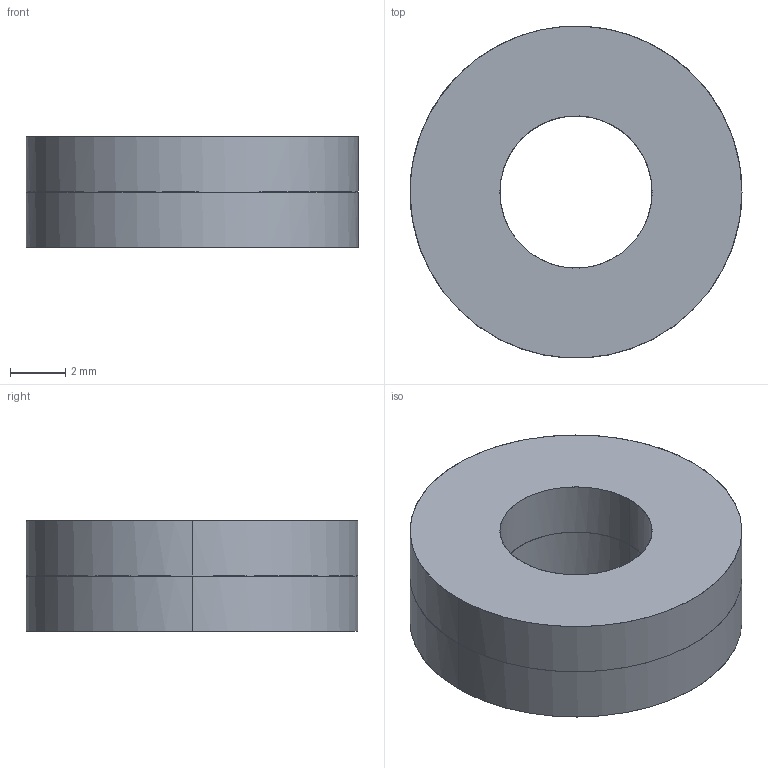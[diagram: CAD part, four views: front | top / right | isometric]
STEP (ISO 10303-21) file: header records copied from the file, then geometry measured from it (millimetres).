
FILE_DESCRIPTION(/* description */ (''),/* implementation_level */ '2;1');
FILE_NAME(/* name */ 'X-B5BD~1',/* time_stamp */ '2014-02-14T19:46:47+01:00',/* author */ (''),/* organization */ (''),/* preprocessor_version */ 'ST-DEVELOPER v14',/* originating_system */ '',/* authorisation */ '');
FILE_SCHEMA (('AUTOMOTIVE_DESIGN'));
Length unit declared in the file: millimetre
Products named in the file (1): Document
Bounding box: 12 x 11.99 x 4 mm (x, y, z)
Surface area: 579 mm2 (no closed solid volume)
Topology: 0 solids, 12 shells, 12 faces, 40 edges, 40 vertices
Faces by surface type: bspline 8, plane 4
Entity records: 1007 total; most frequent: CARTESIAN_POINT 509, B_SPLINE_CURVE_WITH_KNOTS 48, ORIENTED_EDGE 40, PCURVE 40, DEFINITIONAL_REPRESENTATION 40, SURFACE_CURVE 40, EDGE_CURVE 40, VERTEX_POINT 40
